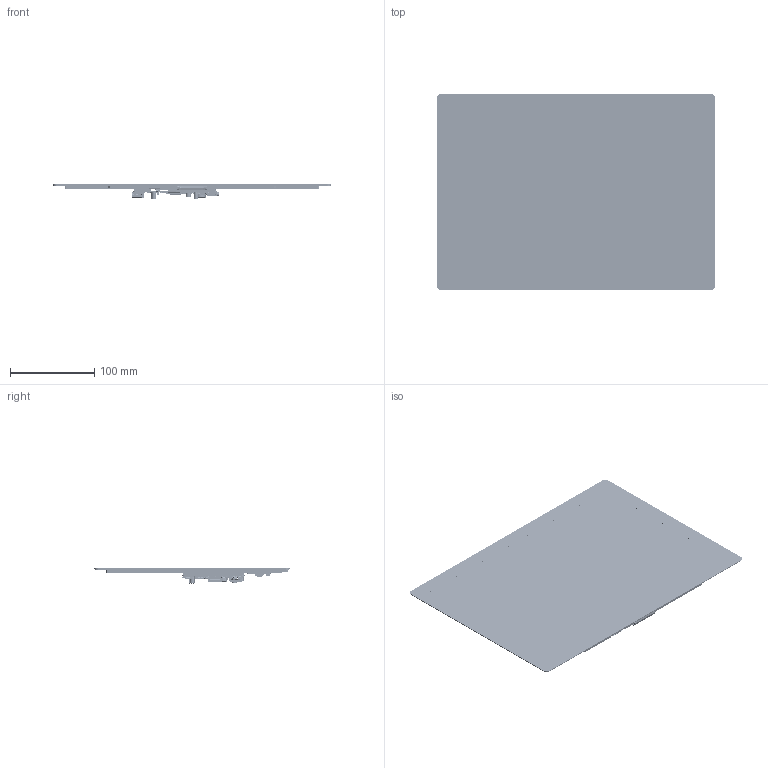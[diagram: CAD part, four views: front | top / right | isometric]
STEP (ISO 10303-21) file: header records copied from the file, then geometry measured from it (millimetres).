
FILE_DESCRIPTION((''),'2;1');
FILE_NAME('14INCH-2160X1440-LCD_ASM_ASM','2026-01-13T14:24:06',('xiaojisheng'),(''),'CREO PARAMETRIC BY PTC INC, 2021063','CREO PARAMETRIC BY PTC INC, 2021063','');
FILE_SCHEMA(('CONFIG_CONTROL_DESIGN','SHAPE_APPEARANCE_LAYERS_GROUPS'));
Products named in the file (168): 14INCH_LCM_216014400; 14INCH-2160X1440-TP; 14INCH_TP-LCD-FPC-PCB; J8_139111_61E040D5; 14INCH-TP-PCBA_ASM_ASM; HL2313_KICAD_PCB; R_0603_1608METRIC-955; R_0603_1608METRIC-932_ASM; C_0603_1608METRIC-1787; C_0603_1608METRIC-1764_ASM; SOT_23; SOT-23_ASM; USER_LIBRARY-QFP5-128-4809_1; USER_LIBRARY-QFP5-128-4809_2; USER_LIBRARY-QFP5-128-4809_3; USER_LIBRARY-QFP5-128-4809_4; USER_LIBRARY-QFP5-128-4809_5; USER_LIBRARY-QFP5-128-4809_6; USER_LIBRARY-QFP5-128-4809_7; USER_LIBRARY-QFP5-128-4809_8; USER_LIBRARY-QFP5-128-4809_9; USER_LIBRARY-QFP5-128-4809_10; USER_LIBRARY-QFP5-128-4809_11; USER_LIBRARY-QFP5-128-4809_12; USER_LIBRARY-QFP5-128-4809_13; USER_LIBRARY-QFP5-128-4809_14; USER_LIBRARY-QFP5-128-4809_15; USER_LIBRARY-QFP5-128-4809_16; USER_LIBRARY-QFP5-128-4809_17; USER_LIBRARY-QFP5-128-4809_18; USER_LIBRARY-QFP5-128-4809_19; USER_LIBRARY-QFP5-128-4809_20; USER_LIBRARY-QFP5-128-4809_21; USER_LIBRARY-QFP5-128-4809_22; USER_LIBRARY-QFP5-128-4809_23; USER_LIBRARY-QFP5-128-4809_24; USER_LIBRARY-QFP5-128-4809_25; USER_LIBRARY-QFP5-128-4809_26; USER_LIBRARY-QFP5-128-4809_27; USER_LIBRARY-QFP5-128-4809_28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
Assembly tree (362 placements, depth 6):
  14INCH-2160X1440-LCD_ASM_ASM
    14INCH_LCM_216014400
    14INCH-2160X1440-TP
    14INCH-TP-PCBA_ASM_ASM
      14INCH_TP-LCD-FPC-PCB
      J8_139111_61E040D5
    14INCH-2160X1440-PCBA_ASM
      HL2313_KICAD_2026_0113_1_ASM
        HL2313_KICAD_PCB
        R_0603_1608METRIC-932_ASM  x90
          R_0603_1608METRIC-955
        C_0603_1608METRIC-1764_ASM  x70
          C_0603_1608METRIC-1787
        SOT-23_ASM  x9
          SOT_23
        USER_LIBRARY-QFP5-128-4786_ASM
          USER_LIBRARY-QFP5-128-4809_ASM
            USER_LIBRARY-QFP5-128-4809_1
            USER_LIBRARY-QFP5-128-4809_2
            USER_LIBRARY-QFP5-128-4809_3
            USER_LIBRARY-QFP5-128-4809_4
            USER_LIBRARY-QFP5-128-4809_5
            USER_LIBRARY-QFP5-128-4809_6
            USER_LIBRARY-QFP5-128-4809_7
            USER_LIBRARY-QFP5-128-4809_8
            USER_LIBRARY-QFP5-128-4809_9
            USER_LIBRARY-QFP5-128-4809_10
            USER_LIBRARY-QFP5-128-4809_11
            USER_LIBRARY-QFP5-128-4809_12
            USER_LIBRARY-QFP5-128-4809_13
            USER_LIBRARY-QFP5-128-4809_14
            USER_LIBRARY-QFP5-128-4809_15
            USER_LIBRARY-QFP5-128-4809_16
            USER_LIBRARY-QFP5-128-4809_17
            USER_LIBRARY-QFP5-128-4809_18
            USER_LIBRARY-QFP5-128-4809_19
            USER_LIBRARY-QFP5-128-4809_20
            USER_LIBRARY-QFP5-128-4809_21
            USER_LIBRARY-QFP5-128-4809_22
            USER_LIBRARY-QFP5-128-4809_23
            USER_LIBRARY-QFP5-128-4809_24
            USER_LIBRARY-QFP5-128-4809_25
            USER_LIBRARY-QFP5-128-4809_26
            USER_LIBRARY-QFP5-128-4809_27
            USER_LIBRARY-QFP5-128-4809_28
            USER_LIBRARY-QFP5-128-4809_29
            USER_LIBRARY-QFP5-128-4809_30
            USER_LIBRARY-QFP5-128-4809_31
            USER_LIBRARY-QFP5-128-4809_32
            USER_LIBRARY-QFP5-128-4809_33
            USER_LIBRARY-QFP5-128-4809_34
            USER_LIBRARY-QFP5-128-4809_35
            USER_LIBRARY-QFP5-128-4809_36
            USER_LIBRARY-QFP5-128-4809_37
            USER_LIBRARY-QFP5-128-4809_38
            USER_LIBRARY-QFP5-128-4809_39
        R_1206_3216METRIC-62326_ASM  x3
          R_1206_3216METRIC-62349
        L_1008_2520METRIC-63168_ASM  x3
          L_1008_2520METRIC-63191
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Bounding box: 330.6 x 232 x 18.09 mm (x, y, z)
Volume: 299222.6 mm3; surface area: 451857.9 mm2
Topology: 333 solids, 344 shells, 16395 faces, 44684 edges, 29177 vertices
Faces by surface type: plane 11944, cylinder 4005, torus 172, bspline 124, cone 87, sphere 36, extrusion 27
Entity records: 368761 total; most frequent: CARTESIAN_POINT 61286, ORIENTED_EDGE 52914, DIRECTION 51229, EDGE_CURVE 26458, VECTOR 21137, LINE 21110, VERTEX_POINT 17135, PRESENTATION_STYLE_ASSIGNMENT 15557
